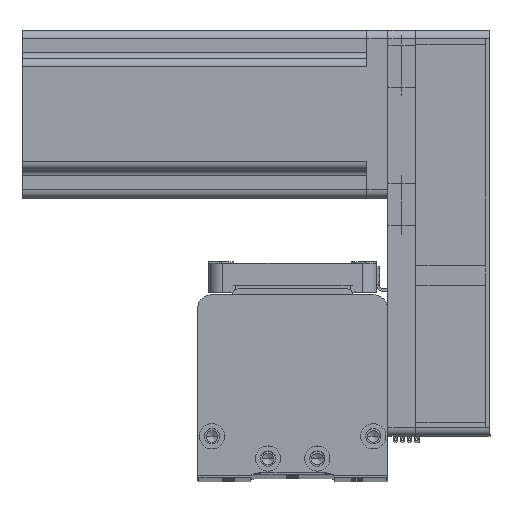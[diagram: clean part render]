
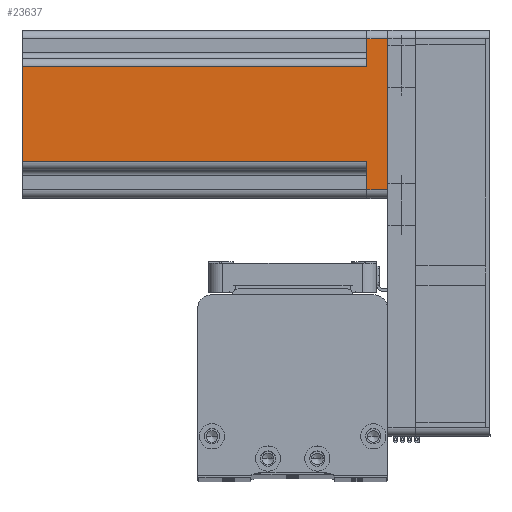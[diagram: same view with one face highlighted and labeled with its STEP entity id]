
A CAD part, top view. The second image highlights one B-rep face of the part: STEP entity #23637.
In plain terms, the highlighted planar face has unit normal (0, 0, 1) as drawn and (0, -1, 0) by its records, which use the part's own axes.
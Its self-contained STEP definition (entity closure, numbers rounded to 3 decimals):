
#683 = LINE ( 'NONE', #47193, #38920 ) ;
#859 = ORIENTED_EDGE ( 'NONE', *, *, #36028, .T. ) ;
#6073 = VERTEX_POINT ( 'NONE', #24481 ) ;
#6325 = CARTESIAN_POINT ( 'NONE',  ( -17., -30., 130.7 ) ) ;
#9683 = DIRECTION ( 'NONE',  ( 0., 0., -1. ) ) ;
#9952 = DIRECTION ( 'NONE',  ( -1., 0., 0. ) ) ;
#10738 = VERTEX_POINT ( 'NONE', #28085 ) ;
#10953 = LINE ( 'NONE', #13483, #30657 ) ;
#13109 = LINE ( 'NONE', #24593, #21795 ) ;
#13483 = CARTESIAN_POINT ( 'NONE',  ( 30., -30., 130.7 ) ) ;
#13639 = CARTESIAN_POINT ( 'NONE',  ( 20., -30., 7.5 ) ) ;
#13849 = ORIENTED_EDGE ( 'NONE', *, *, #36507, .T. ) ;
#14222 = VECTOR ( 'NONE', #17453, 1000. ) ;
#15358 = CARTESIAN_POINT ( 'NONE',  ( -17., -30., 7.5 ) ) ;
#15609 = LINE ( 'NONE', #44434, #26577 ) ;
#16400 = ORIENTED_EDGE ( 'NONE', *, *, #19520, .T. ) ;
#16488 = CARTESIAN_POINT ( 'NONE',  ( 30., -30., 130.7 ) ) ;
#16521 = DIRECTION ( 'NONE',  ( 1., 0., 0. ) ) ;
#17453 = DIRECTION ( 'NONE',  ( 1., 0., 0. ) ) ;
#18309 = EDGE_CURVE ( 'NONE', #27558, #28495, #10953, .T. ) ;
#18407 = VERTEX_POINT ( 'NONE', #39868 ) ;
#19520 = EDGE_CURVE ( 'NONE', #25545, #6073, #42581, .T. ) ;
#20209 = DIRECTION ( 'NONE',  ( -1., 0., 0. ) ) ;
#20947 = VERTEX_POINT ( 'NONE', #15358 ) ;
#20982 = CARTESIAN_POINT ( 'NONE',  ( 17., -30., 130.7 ) ) ;
#21795 = VECTOR ( 'NONE', #16521, 1000. ) ;
#22185 = CARTESIAN_POINT ( 'NONE',  ( 27., -30., 130.7 ) ) ;
#22306 = DIRECTION ( 'NONE',  ( 0., 0., 1. ) ) ;
#22575 = LINE ( 'NONE', #22185, #30105 ) ;
#23637 = ADVANCED_FACE ( 'NONE', ( #35664 ), #42189, .F. ) ;
#24481 = CARTESIAN_POINT ( 'NONE',  ( 27., -30., 0. ) ) ;
#24593 = CARTESIAN_POINT ( 'NONE',  ( -20., -30., 7.5 ) ) ;
#25545 = VERTEX_POINT ( 'NONE', #37300 ) ;
#25872 = EDGE_CURVE ( 'NONE', #10738, #45497, #45583, .T. ) ;
#26373 = EDGE_CURVE ( 'NONE', #18407, #20947, #13109, .T. ) ;
#26577 = VECTOR ( 'NONE', #22306, 1000. ) ;
#26729 = LINE ( 'NONE', #28092, #35451 ) ;
#27558 = VERTEX_POINT ( 'NONE', #6325 ) ;
#28085 = CARTESIAN_POINT ( 'NONE',  ( 27., -30., 7.5 ) ) ;
#28092 = CARTESIAN_POINT ( 'NONE',  ( -27., -30., 130.7 ) ) ;
#28495 = VERTEX_POINT ( 'NONE', #20982 ) ;
#29065 = ORIENTED_EDGE ( 'NONE', *, *, #34714, .T. ) ;
#29625 = DIRECTION ( 'NONE',  ( 0., 0., 1. ) ) ;
#30105 = VECTOR ( 'NONE', #29625, 1000. ) ;
#30657 = VECTOR ( 'NONE', #31808, 1000. ) ;
#31808 = DIRECTION ( 'NONE',  ( 1., 0., 0. ) ) ;
#34714 = EDGE_CURVE ( 'NONE', #27558, #20947, #683, .T. ) ;
#34894 = CARTESIAN_POINT ( 'NONE',  ( 17., -30., 7.5 ) ) ;
#35451 = VECTOR ( 'NONE', #9683, 1000. ) ;
#35664 = FACE_OUTER_BOUND ( 'NONE', #41311, .T. ) ;
#36028 = EDGE_CURVE ( 'NONE', #6073, #10738, #22575, .T. ) ;
#36507 = EDGE_CURVE ( 'NONE', #45497, #28495, #15609, .T. ) ;
#37300 = CARTESIAN_POINT ( 'NONE',  ( -27., -30., 0. ) ) ;
#38146 = ORIENTED_EDGE ( 'NONE', *, *, #18309, .F. ) ;
#38853 = ORIENTED_EDGE ( 'NONE', *, *, #26373, .F. ) ;
#38920 = VECTOR ( 'NONE', #43638, 1000. ) ;
#39605 = CARTESIAN_POINT ( 'NONE',  ( 30., -30., 0. ) ) ;
#39868 = CARTESIAN_POINT ( 'NONE',  ( -27., -30., 7.5 ) ) ;
#41311 = EDGE_LOOP ( 'NONE', ( #38146, #29065, #38853, #42822, #16400, #859, #43052, #13849 ) ) ;
#42189 = PLANE ( 'NONE',  #43904 ) ;
#42333 = DIRECTION ( 'NONE',  ( 0., 1., 0. ) ) ;
#42581 = LINE ( 'NONE', #39605, #14222 ) ;
#42822 = ORIENTED_EDGE ( 'NONE', *, *, #46759, .T. ) ;
#43052 = ORIENTED_EDGE ( 'NONE', *, *, #25872, .T. ) ;
#43638 = DIRECTION ( 'NONE',  ( 0., 0., -1. ) ) ;
#43904 = AXIS2_PLACEMENT_3D ( 'NONE', #16488, #42333, #20209 ) ;
#44418 = VECTOR ( 'NONE', #9952, 1000. ) ;
#44434 = CARTESIAN_POINT ( 'NONE',  ( 17., -30., 130.7 ) ) ;
#45497 = VERTEX_POINT ( 'NONE', #34894 ) ;
#45583 = LINE ( 'NONE', #13639, #44418 ) ;
#46759 = EDGE_CURVE ( 'NONE', #18407, #25545, #26729, .T. ) ;
#47193 = CARTESIAN_POINT ( 'NONE',  ( -17., -30., 130.7 ) ) ;
